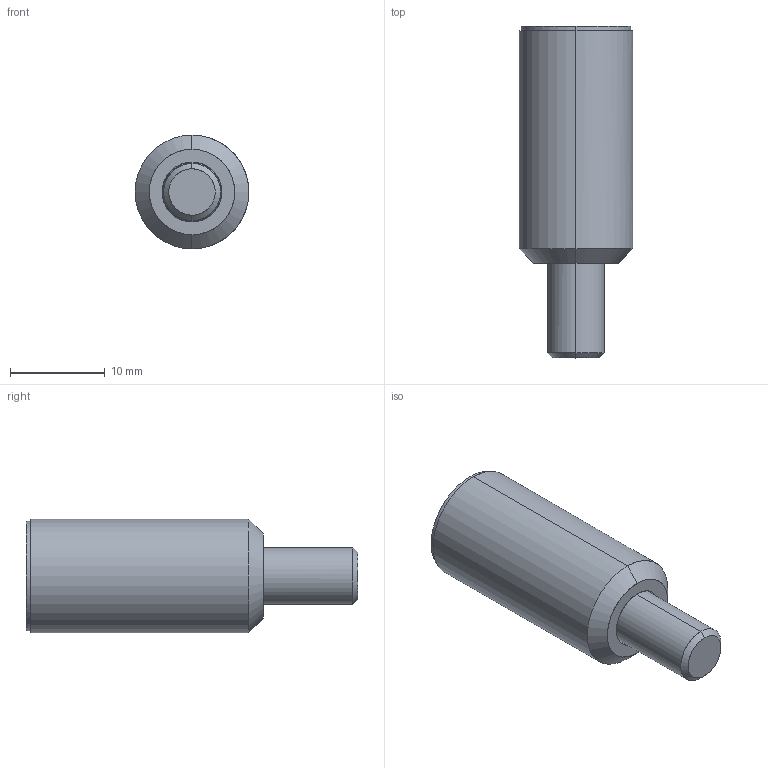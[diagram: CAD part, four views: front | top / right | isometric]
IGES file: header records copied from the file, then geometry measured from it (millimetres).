
Start section: START RECORD GO HERE.
Global section: file name: po250635.igs; native system: DASSAULT SYSTEMES CATIA V5 R20 - www.3ds.com; preprocessor: CATIA Version 5 Release 20 ; author: Utente; organization: NB04-ASUS; date: 20201103.211057; units: millimetre
Bounding box: 12 x 35 x 12 mm (x, y, z)
Surface area: 2403.1 mm2 (no closed solid volume)
Topology: 0 solids, 0 shells, 36 faces, 150 edges, 148 vertices
Faces by surface type: revolution 20, plane 16
